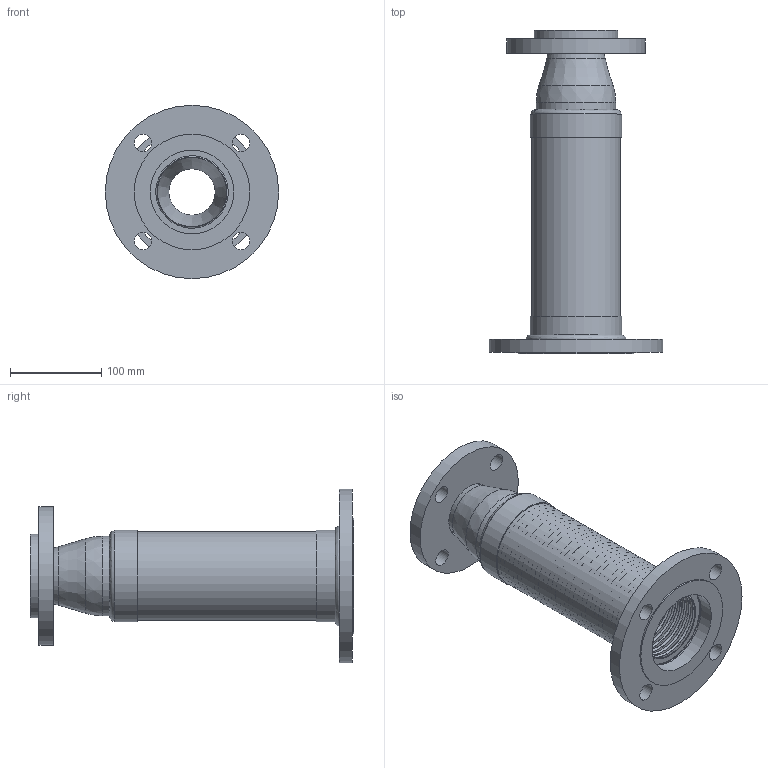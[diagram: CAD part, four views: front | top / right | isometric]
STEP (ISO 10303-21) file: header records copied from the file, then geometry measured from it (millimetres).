
FILE_DESCRIPTION((''),'2;1');
FILE_NAME('C:\2012_Work\Designs\RFFL\RFFL-3x2in.stp','2013-08-19T14:17:45',('KShiels'),(''),'Autodesk Inventor 2012','Autodesk Inventor 2012','');
FILE_SCHEMA(('AUTOMOTIVE_DESIGN { 1 0 10303 214 1 1 1 1 }'));
Length unit declared in the file: inch
Products named in the file (9): RFFL-3x2in; RFFL-3x2in_Welds; A-30993_3in_RFFL-BRAID; A-30993_3in_RFFL-BELLOWS; A-30993_3in_RFFL-BRAID-COLLAR; A-30988_3in-FIXED-FLANGE; A-30989_2in-FLOATING-FLANGE; A-30991_3x2in-REDUCER; A-30990_2in-WASHER
Assembly tree (9 placements, depth 2):
  RFFL-3x2in
    RFFL-3x2in_Welds
    A-30993_3in_RFFL-BRAID
    A-30993_3in_RFFL-BELLOWS
    A-30993_3in_RFFL-BRAID-COLLAR  x2
    A-30988_3in-FIXED-FLANGE
    A-30989_2in-FLOATING-FLANGE
    A-30991_3x2in-REDUCER
    A-30990_2in-WASHER
Bounding box: 190.5 x 355.76 x 190.5 mm (x, y, z)
Volume: 808824.8 mm3; surface area: 832857.9 mm2
Topology: 11 solids, 11 shells, 356 faces, 571 edges, 383 vertices
Faces by surface type: plane 168, torus 151, cylinder 28, cone 5, bspline 4
Full cylindrical faces by diameter (mm): 19.05 x8, 50.8 x1, 58.623 x1, 63.5 x3, 76.2 x1, 87.173 x2, 92.075 x2, 97.028 x1, 97.841 x3, 100.222 x3, 127 x1, 152.4 x1, 190.5 x1
Entity records: 8412 total; most frequent: CARTESIAN_POINT 2005, DIRECTION 1440, ORIENTED_EDGE 738, AXIS2_PLACEMENT_3D 720, EDGE_LOOP 717, EDGE_CURVE 369, VERTEX_POINT 366, FACE_BOUND 365
